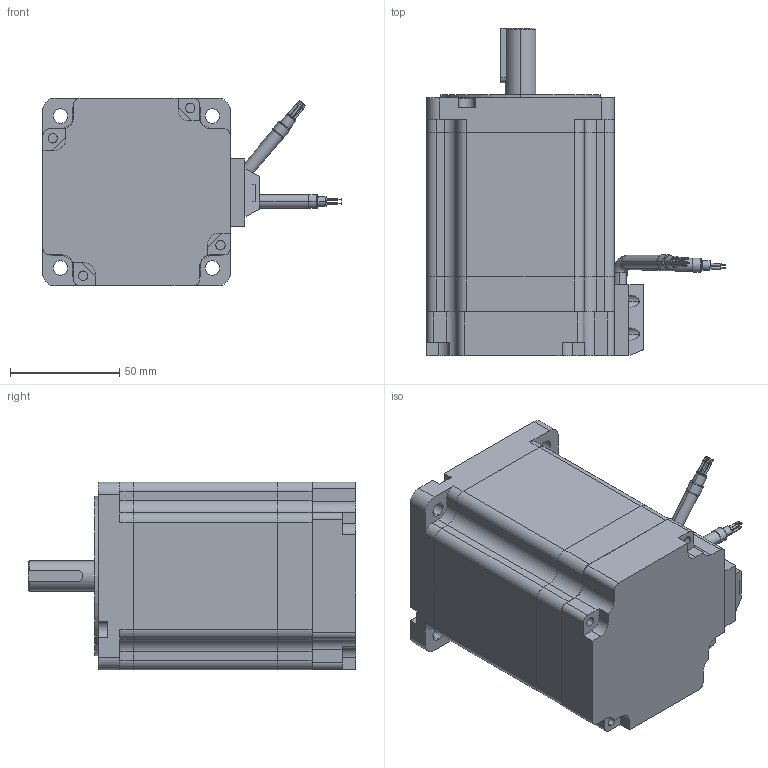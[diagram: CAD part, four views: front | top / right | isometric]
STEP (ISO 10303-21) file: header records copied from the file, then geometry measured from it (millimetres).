
FILE_DESCRIPTION (( 'STEP AP214' ), '1' );
FILE_NAME ('86HS298-6004E-XXX.STEP', '2024-03-19T09:27:51', ( 'MM' ), ( 'Microsoft' ), 'SwSTEP 2.0', 'SolidWorks 2024', '' );
FILE_SCHEMA (( 'AUTOMOTIVE_DESIGN' ));
Length unit declared in the file: millimetre
Products named in the file (1): 86HS298-6004E-XXX
Bounding box: 136.87 x 150 x 86 mm (x, y, z)
Volume: 721845.4 mm3; surface area: 89391 mm2
Topology: 4 solids, 4 shells, 412 faces, 1089 edges, 712 vertices
Faces by surface type: cylinder 196, plane 179, torus 22, cone 8, bspline 7
Entity records: 13290 total; most frequent: CARTESIAN_POINT 2537, DIRECTION 2353, ORIENTED_EDGE 2178, EDGE_CURVE 1089, AXIS2_PLACEMENT_3D 876, VERTEX_POINT 712, VECTOR 601, LINE 601
